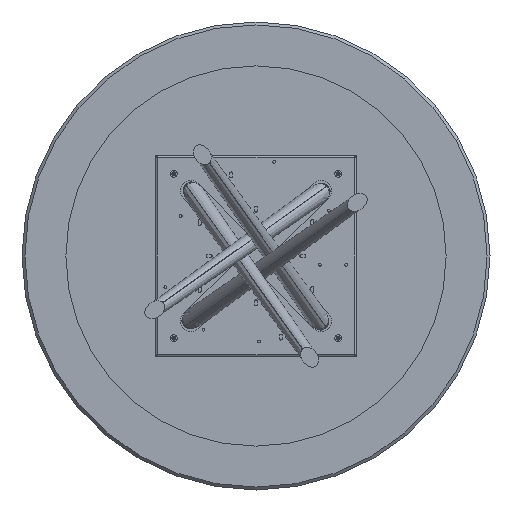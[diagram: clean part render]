
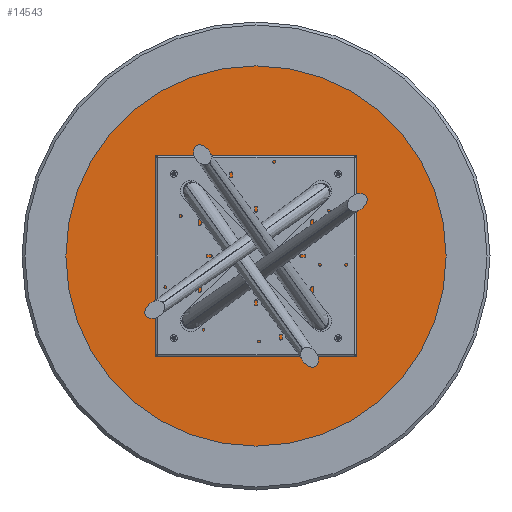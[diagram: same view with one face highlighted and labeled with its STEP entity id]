
A CAD part, front view. The second image highlights one B-rep face of the part: STEP entity #14543.
In plain terms, the highlighted planar face has unit normal (0, -1, 0).
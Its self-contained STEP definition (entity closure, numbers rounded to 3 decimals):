
#706 = FACE_BOUND ( 'NONE', #4746, .T. ) ;
#782 = DIRECTION ( 'NONE',  ( 0., -1., 0. ) ) ;
#964 = FACE_OUTER_BOUND ( 'NONE', #14760, .T. ) ;
#1234 = DIRECTION ( 'NONE',  ( 0., 0., -1. ) ) ;
#1250 = DIRECTION ( 'NONE',  ( 0., -1., 0. ) ) ;
#1462 = CIRCLE ( 'NONE', #6853, 650. ) ;
#1635 = AXIS2_PLACEMENT_3D ( 'NONE', #2223, #13229, #11707 ) ;
#1666 = CARTESIAN_POINT ( 'NONE',  ( 0., 0., -650. ) ) ;
#1735 = VERTEX_POINT ( 'NONE', #11233 ) ;
#1787 = VERTEX_POINT ( 'NONE', #1666 ) ;
#1883 = EDGE_LOOP ( 'NONE', ( #13439, #15852 ) ) ;
#2005 = DIRECTION ( 'NONE',  ( 0., 1., 0. ) ) ;
#2099 = CARTESIAN_POINT ( 'NONE',  ( 397.5, 0., 0. ) ) ;
#2223 = CARTESIAN_POINT ( 'NONE',  ( -397.5, 0., 0. ) ) ;
#2398 = EDGE_CURVE ( 'NONE', #7356, #7820, #9140, .T. ) ;
#2765 = DIRECTION ( 'NONE',  ( 0., 0., -1. ) ) ;
#2820 = EDGE_CURVE ( 'NONE', #9581, #1787, #1462, .T. ) ;
#3032 = AXIS2_PLACEMENT_3D ( 'NONE', #8087, #1250, #2765 ) ;
#3051 = CIRCLE ( 'NONE', #1635, 3.4 ) ;
#3084 = CARTESIAN_POINT ( 'NONE',  ( -397.5, 0., -3.4 ) ) ;
#3325 = DIRECTION ( 'NONE',  ( 0., -1., 0. ) ) ;
#3339 = CARTESIAN_POINT ( 'NONE',  ( 0., 0., 0. ) ) ;
#3517 = AXIS2_PLACEMENT_3D ( 'NONE', #8870, #14397, #14481 ) ;
#3544 = AXIS2_PLACEMENT_3D ( 'NONE', #10386, #3325, #13079 ) ;
#3642 = EDGE_CURVE ( 'NONE', #1735, #16391, #8550, .T. ) ;
#3648 = EDGE_CURVE ( 'NONE', #1787, #9581, #9684, .T. ) ;
#3757 = VERTEX_POINT ( 'NONE', #14493 ) ;
#3808 = DIRECTION ( 'NONE',  ( 0., -1., 0. ) ) ;
#4278 = VERTEX_POINT ( 'NONE', #5909 ) ;
#4529 = ORIENTED_EDGE ( 'NONE', *, *, #12274, .F. ) ;
#4746 = EDGE_LOOP ( 'NONE', ( #9144, #13853 ) ) ;
#4747 = CARTESIAN_POINT ( 'NONE',  ( 0., 0., -397.5 ) ) ;
#5207 = EDGE_CURVE ( 'NONE', #6234, #8576, #6416, .T. ) ;
#5225 = EDGE_LOOP ( 'NONE', ( #4529, #8914 ) ) ;
#5235 = CARTESIAN_POINT ( 'NONE',  ( 0., 0., 0. ) ) ;
#5457 = DIRECTION ( 'NONE',  ( 0., -1., 0. ) ) ;
#5659 = ORIENTED_EDGE ( 'NONE', *, *, #2398, .F. ) ;
#5665 = CARTESIAN_POINT ( 'NONE',  ( 0., 0., 0. ) ) ;
#5764 = CARTESIAN_POINT ( 'NONE',  ( 397.5, 0., -3.4 ) ) ;
#5832 = EDGE_CURVE ( 'NONE', #8576, #6234, #8414, .T. ) ;
#5909 = CARTESIAN_POINT ( 'NONE',  ( -397.5, 0., 3.4 ) ) ;
#6086 = DIRECTION ( 'NONE',  ( 0., -1., 0. ) ) ;
#6210 = DIRECTION ( 'NONE',  ( 0., 0., -1. ) ) ;
#6234 = VERTEX_POINT ( 'NONE', #17105 ) ;
#6310 = AXIS2_PLACEMENT_3D ( 'NONE', #10639, #3808, #1234 ) ;
#6317 = EDGE_CURVE ( 'NONE', #17420, #3757, #17214, .T. ) ;
#6342 = CARTESIAN_POINT ( 'NONE',  ( 0., 0., 650. ) ) ;
#6416 = CIRCLE ( 'NONE', #15767, 6.3 ) ;
#6584 = CARTESIAN_POINT ( 'NONE',  ( 0., 0., 0. ) ) ;
#6689 = EDGE_CURVE ( 'NONE', #4278, #14717, #12108, .T. ) ;
#6853 = AXIS2_PLACEMENT_3D ( 'NONE', #3339, #2005, #9018 ) ;
#7108 = EDGE_CURVE ( 'NONE', #14717, #4278, #3051, .T. ) ;
#7356 = VERTEX_POINT ( 'NONE', #10807 ) ;
#7574 = EDGE_LOOP ( 'NONE', ( #12917, #10346 ) ) ;
#7659 = ORIENTED_EDGE ( 'NONE', *, *, #8756, .F. ) ;
#7789 = CIRCLE ( 'NONE', #3544, 3.4 ) ;
#7820 = VERTEX_POINT ( 'NONE', #9626 ) ;
#8023 = CARTESIAN_POINT ( 'NONE',  ( 0., 0., 397.5 ) ) ;
#8087 = CARTESIAN_POINT ( 'NONE',  ( 0., 0., -397.5 ) ) ;
#8334 = AXIS2_PLACEMENT_3D ( 'NONE', #8023, #5457, #16209 ) ;
#8414 = CIRCLE ( 'NONE', #13244, 6.3 ) ;
#8550 = CIRCLE ( 'NONE', #6310, 3.4 ) ;
#8576 = VERTEX_POINT ( 'NONE', #10221 ) ;
#8624 = CIRCLE ( 'NONE', #8334, 3.4 ) ;
#8756 = EDGE_CURVE ( 'NONE', #7820, #7356, #10687, .T. ) ;
#8786 = FACE_BOUND ( 'NONE', #14105, .T. ) ;
#8870 = CARTESIAN_POINT ( 'NONE',  ( 0., 0., 0. ) ) ;
#8914 = ORIENTED_EDGE ( 'NONE', *, *, #3642, .F. ) ;
#9004 = DIRECTION ( 'NONE',  ( 0., -1., 0. ) ) ;
#9018 = DIRECTION ( 'NONE',  ( 0., 0., 1. ) ) ;
#9140 = CIRCLE ( 'NONE', #12556, 3.4 ) ;
#9144 = ORIENTED_EDGE ( 'NONE', *, *, #6317, .F. ) ;
#9468 = DIRECTION ( 'NONE',  ( 0., 0., -1. ) ) ;
#9581 = VERTEX_POINT ( 'NONE', #6342 ) ;
#9626 = CARTESIAN_POINT ( 'NONE',  ( 0., 0., -394.1 ) ) ;
#9684 = CIRCLE ( 'NONE', #11102, 650. ) ;
#10221 = CARTESIAN_POINT ( 'NONE',  ( 0., 0., 6.3 ) ) ;
#10346 = ORIENTED_EDGE ( 'NONE', *, *, #5832, .F. ) ;
#10386 = CARTESIAN_POINT ( 'NONE',  ( 397.5, 0., 0. ) ) ;
#10639 = CARTESIAN_POINT ( 'NONE',  ( 0., 0., 397.5 ) ) ;
#10687 = CIRCLE ( 'NONE', #3032, 3.4 ) ;
#10807 = CARTESIAN_POINT ( 'NONE',  ( 0., 0., -400.9 ) ) ;
#11102 = AXIS2_PLACEMENT_3D ( 'NONE', #5235, #12072, #17489 ) ;
#11233 = CARTESIAN_POINT ( 'NONE',  ( 0., 0., 400.9 ) ) ;
#11660 = DIRECTION ( 'NONE',  ( 0., 0., -1. ) ) ;
#11702 = PLANE ( 'NONE',  #3517 ) ;
#11707 = DIRECTION ( 'NONE',  ( 0., 0., -1. ) ) ;
#11989 = DIRECTION ( 'NONE',  ( 0., -1., 0. ) ) ;
#12072 = DIRECTION ( 'NONE',  ( 0., 1., 0. ) ) ;
#12108 = CIRCLE ( 'NONE', #16649, 3.4 ) ;
#12274 = EDGE_CURVE ( 'NONE', #16391, #1735, #8624, .T. ) ;
#12322 = DIRECTION ( 'NONE',  ( 0., -1., 0. ) ) ;
#12556 = AXIS2_PLACEMENT_3D ( 'NONE', #4747, #9004, #11660 ) ;
#12917 = ORIENTED_EDGE ( 'NONE', *, *, #5207, .F. ) ;
#13057 = FACE_BOUND ( 'NONE', #5225, .T. ) ;
#13079 = DIRECTION ( 'NONE',  ( 0., 0., -1. ) ) ;
#13229 = DIRECTION ( 'NONE',  ( 0., -1., 0. ) ) ;
#13244 = AXIS2_PLACEMENT_3D ( 'NONE', #6584, #11989, #16089 ) ;
#13381 = CARTESIAN_POINT ( 'NONE',  ( 0., 0., 394.1 ) ) ;
#13439 = ORIENTED_EDGE ( 'NONE', *, *, #7108, .F. ) ;
#13853 = ORIENTED_EDGE ( 'NONE', *, *, #15288, .F. ) ;
#14105 = EDGE_LOOP ( 'NONE', ( #5659, #7659 ) ) ;
#14117 = AXIS2_PLACEMENT_3D ( 'NONE', #2099, #782, #6210 ) ;
#14397 = DIRECTION ( 'NONE',  ( 0., 1., 0. ) ) ;
#14481 = DIRECTION ( 'NONE',  ( 0., 0., 1. ) ) ;
#14493 = CARTESIAN_POINT ( 'NONE',  ( 397.5, 0., 3.4 ) ) ;
#14519 = CARTESIAN_POINT ( 'NONE',  ( -397.5, 0., 0. ) ) ;
#14531 = ORIENTED_EDGE ( 'NONE', *, *, #2820, .F. ) ;
#14543 = ADVANCED_FACE ( 'NONE', ( #17213, #17040, #13057, #706, #8786, #964 ), #11702, .F. ) ;
#14717 = VERTEX_POINT ( 'NONE', #3084 ) ;
#14760 = EDGE_LOOP ( 'NONE', ( #16772, #14531 ) ) ;
#15288 = EDGE_CURVE ( 'NONE', #3757, #17420, #7789, .T. ) ;
#15509 = DIRECTION ( 'NONE',  ( 0., 0., -1. ) ) ;
#15767 = AXIS2_PLACEMENT_3D ( 'NONE', #5665, #12322, #9468 ) ;
#15852 = ORIENTED_EDGE ( 'NONE', *, *, #6689, .F. ) ;
#16089 = DIRECTION ( 'NONE',  ( 0., 0., -1. ) ) ;
#16209 = DIRECTION ( 'NONE',  ( 0., 0., -1. ) ) ;
#16391 = VERTEX_POINT ( 'NONE', #13381 ) ;
#16649 = AXIS2_PLACEMENT_3D ( 'NONE', #14519, #6086, #15509 ) ;
#16772 = ORIENTED_EDGE ( 'NONE', *, *, #3648, .F. ) ;
#17040 = FACE_BOUND ( 'NONE', #1883, .T. ) ;
#17105 = CARTESIAN_POINT ( 'NONE',  ( 0., 0., -6.3 ) ) ;
#17213 = FACE_BOUND ( 'NONE', #7574, .T. ) ;
#17214 = CIRCLE ( 'NONE', #14117, 3.4 ) ;
#17420 = VERTEX_POINT ( 'NONE', #5764 ) ;
#17489 = DIRECTION ( 'NONE',  ( 0., 0., 1. ) ) ;
